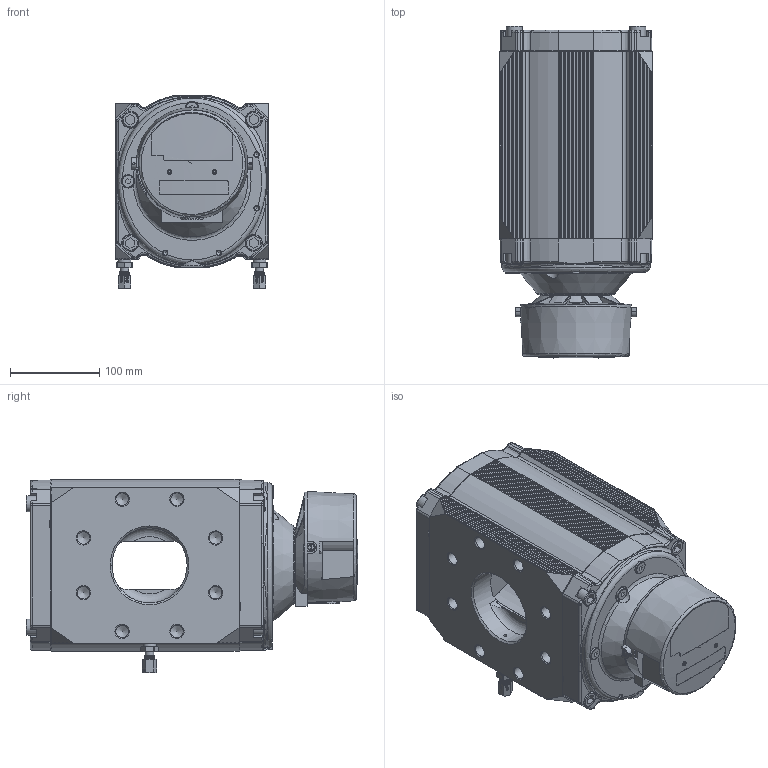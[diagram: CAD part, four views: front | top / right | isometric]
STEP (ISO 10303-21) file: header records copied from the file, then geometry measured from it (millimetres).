
FILE_DESCRIPTION(('STEP AP242'), '1');
FILE_NAME('ñ÷åò÷èê ÐÂÃ-À G100', '', ('UNSPECIFIED'), ('UNSPECIFIED'), 'C3D Converter', 'C3D Toolkit', '');
FILE_SCHEMA(('AP242_MANAGED_MODEL_BASED_3D_ENGINEERING_MIM_LF { 1 0 10303 442 1 1 4 }'));
Length unit declared in the file: millimetre
Bounding box: 171 x 370.9 x 215.85 mm (x, y, z)
Volume: 4419033.7 mm3; surface area: 656515.2 mm2
Topology: 24 solids, 24 shells, 1554 faces, 3995 edges, 2548 vertices
Faces by surface type: cylinder 549, plane 535, cone 267, torus 122, bspline 77, sphere 4
Full cylindrical faces by diameter (mm): 2 x10, 2.5 x4, 3.1 x1, 3.2 x2, 4 x7, 4.2 x6, 4.3 x2, 5 x8, 5.8 x4, 6 x18, 7 x2, 9 x5, 9.264 x2, 10 x5, 10.25 x8, 10.5 x1, 10.7 x2, 12 x8, 13 x8, 14 x21, 15 x2, 18 x9, 22 x2, 27 x2, 28.03 x2, 30 x1, 39 x1, 43.5 x1, 62.2 x1, 62.4 x1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
Entity records: 93402 total; most frequent: CARTESIAN_POINT 45755, ORIENTED_EDGE 7174, DIRECTION 6935, EDGE_CURVE 3587, AXIS2_PLACEMENT_3D 2773, VERTEX_POINT 2494, EDGE_LOOP 2035, COLOUR_RGB 1578
